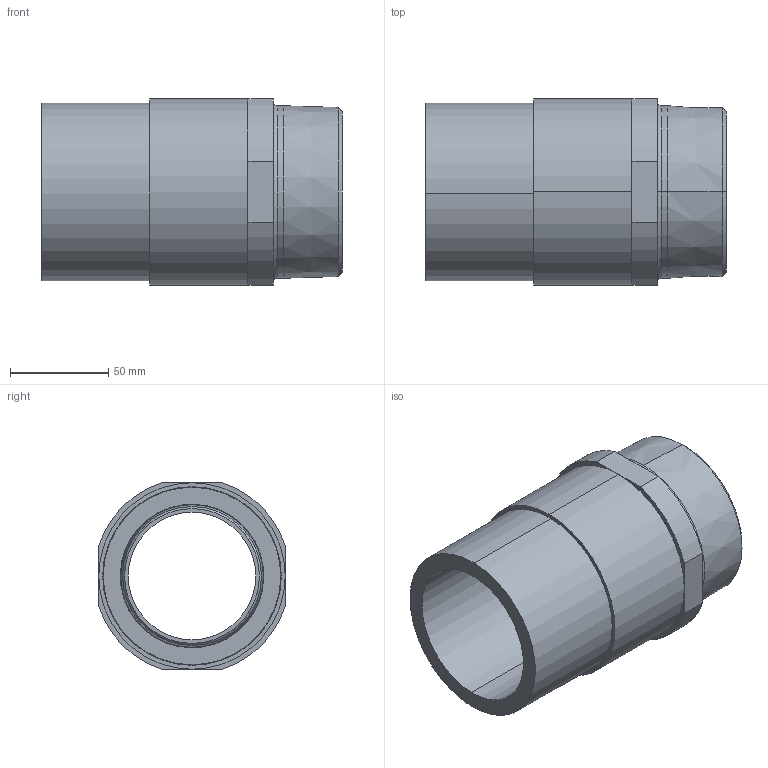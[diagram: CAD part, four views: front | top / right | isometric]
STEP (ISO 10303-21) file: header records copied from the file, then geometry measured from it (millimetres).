
FILE_DESCRIPTION (( 'STEP AP214' ), '1' );
FILE_NAME ('KP_C17-90M.step', '2012-09-03T10:40:50', ( 'robinj' ), ( 'Microsoft' ), 'SwSTEP 2.0', 'SolidWorks 2012', '' );
FILE_SCHEMA (( 'AUTOMOTIVE_DESIGN' ));
Length unit declared in the file: millimetre
Products named in the file (1): KP_C17-90M
Bounding box: 153 x 95 x 95 mm (x, y, z)
Volume: 409520.4 mm3; surface area: 141938.4 mm2
Topology: 3 solids, 3 shells, 58 faces, 122 edges, 74 vertices
Faces by surface type: cylinder 24, plane 14, cone 12, torus 8
Entity records: 2266 total; most frequent: DIRECTION 314, CARTESIAN_POINT 255, ORIENTED_EDGE 244, AXIS2_PLACEMENT_3D 133, EDGE_CURVE 122, CIRCLE 74, VERTEX_POINT 74, EDGE_LOOP 68
